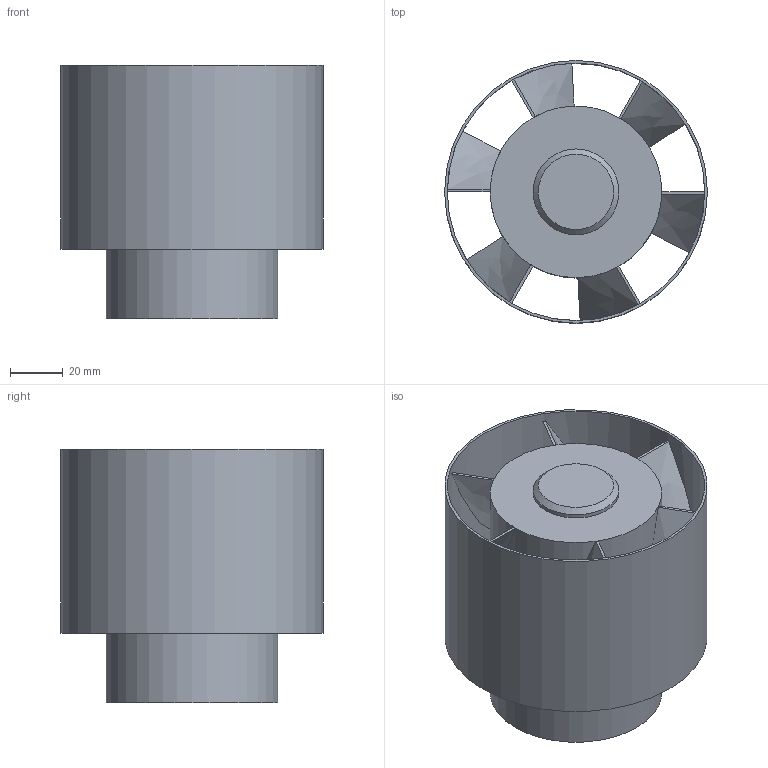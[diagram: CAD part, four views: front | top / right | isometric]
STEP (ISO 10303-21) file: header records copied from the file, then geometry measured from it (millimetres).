
FILE_DESCRIPTION(/* description */ (''),/* implementation_level */ '2;1');
FILE_NAME(/* name */ 'Z:\Output\REW_90_K-00441-001.stp',/* time_stamp */ '2017-07-19T17:29:16+02:00',/* author */ ('engineering1'),/* organization */ (''),/* preprocessor_version */ 'ST-DEVELOPER v16.5',/* originating_system */ 'Autodesk Inventor 2017',/* authorisation */ '');
FILE_SCHEMA (('AUTOMOTIVE_DESIGN { 1 0 10303 214 3 1 1 }'));
Length unit declared in the file: millimetre
Products named in the file (1): REW-1
Bounding box: 100 x 100 x 96.5 mm (x, y, z)
Volume: 339958.1 mm3; surface area: 78654.2 mm2
Topology: 2 solids, 2 shells, 40 faces, 93 edges, 57 vertices
Faces by surface type: bspline 18, plane 17, cylinder 4, cone 1
Full cylindrical faces by diameter (mm): 32.667 x1, 65.333 x1, 98 x1, 100 x1
Entity records: 1394 total; most frequent: CARTESIAN_POINT 526, ORIENTED_EDGE 184, DIRECTION 136, EDGE_CURVE 86, VERTEX_POINT 56, EDGE_LOOP 54, AXIS2_PLACEMENT_3D 50, FACE_OUTER_BOUND 40
